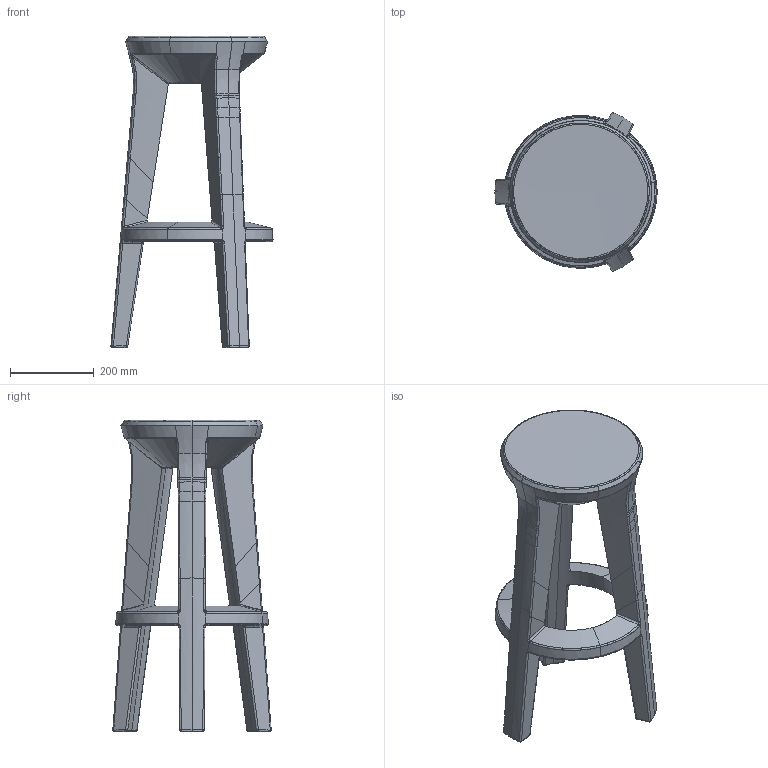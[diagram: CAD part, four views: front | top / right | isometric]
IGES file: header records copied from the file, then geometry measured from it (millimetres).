
Start section: START RECORD GO HERE.
Global section: file name: FROZEN stool_design by Matteo Ragni-Maurizio Prina_PLUST 2015.igs; native system: DASSAULT SYSTEMES CATIA Version 5-6 Release 2014 - www.3ds.com; preprocessor: V5-6R2014_5.24.0.0.01-15-2014.20.00; author: forrico; organization: DOMAIN; date: 20150428.122925; units: millimetre
Bounding box: 387.69 x 378.85 x 744.65 mm (x, y, z)
Surface area: 813186.4 mm2 (no closed solid volume)
Topology: 0 solids, 0 shells, 532 faces, 3039 edges, 3017 vertices
Faces by surface type: bspline 525, plane 7
